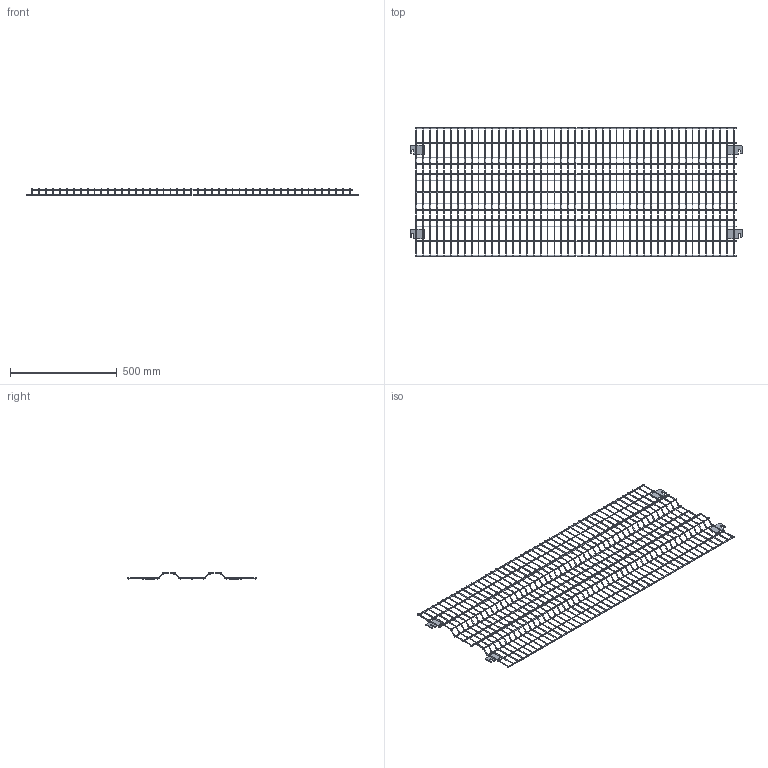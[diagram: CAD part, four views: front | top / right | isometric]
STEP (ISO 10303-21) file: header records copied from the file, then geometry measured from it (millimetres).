
FILE_DESCRIPTION (( 'STEP AP203' ), '1' );
FILE_NAME ('Frameless Panel 1500 x 600.STEP', '2023-09-15T16:47:41', ( '' ), ( '' ), 'SwSTEP 2.0', 'SolidWorks 2023', '' );
FILE_SCHEMA (( 'CONFIG_CONTROL_DESIGN' ));
Length unit declared in the file: millimetre
Products named in the file (1): Frameless Panel 1500 x 600
Bounding box: 1556 x 600 x 32 mm (x, y, z)
Volume: 664678.5 mm3; surface area: 652643.3 mm2
Topology: 64 solids, 64 shells, 1902 faces, 3724 edges, 1950 vertices
Faces by surface type: cylinder 994, torus 752, plane 156
Entity records: 48041 total; most frequent: DIRECTION 10176, CARTESIAN_POINT 7577, ORIENTED_EDGE 7448, AXIS2_PLACEMENT_3D 4549, EDGE_CURVE 3724, CIRCLE 2646, VERTEX_POINT 1950, FACE_OUTER_BOUND 1902
